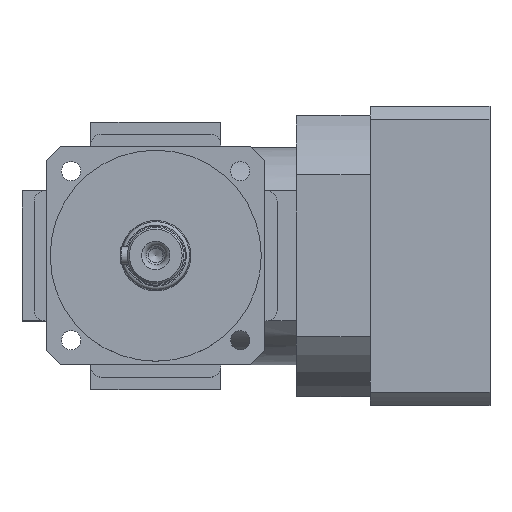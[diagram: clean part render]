
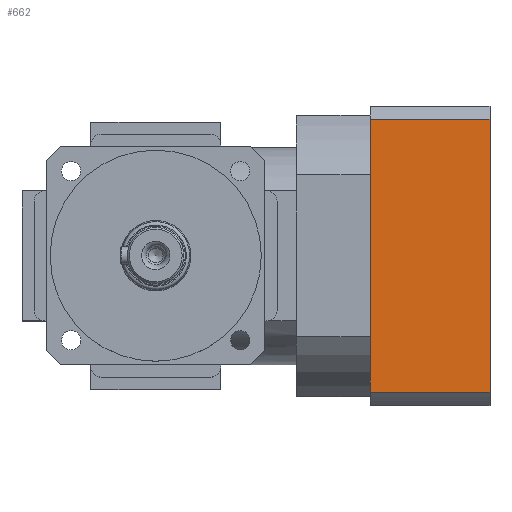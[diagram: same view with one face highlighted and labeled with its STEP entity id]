
A CAD part, top view. The second image highlights one B-rep face of the part: STEP entity #662.
In plain terms, the highlighted planar face has unit normal (0, 0, 1).
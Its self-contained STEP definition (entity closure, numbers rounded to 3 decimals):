
#662=ADVANCED_FACE('',(#1228),#970,.T.);
#970=PLANE('',#7065);
#1228=FACE_OUTER_BOUND('',#1603,.T.);
#1603=EDGE_LOOP('',(#3054,#3055,#3056,#3057));
#3054=ORIENTED_EDGE('',*,*,#5092,.F.);
#3055=ORIENTED_EDGE('',*,*,#5106,.F.);
#3056=ORIENTED_EDGE('',*,*,#5107,.T.);
#3057=ORIENTED_EDGE('',*,*,#5108,.T.);
#4325=VERTEX_POINT('',#10401);
#4326=VERTEX_POINT('',#10403);
#4335=VERTEX_POINT('',#10429);
#4336=VERTEX_POINT('',#10433);
#5092=EDGE_CURVE('',#4325,#4326,#5846,.T.);
#5106=EDGE_CURVE('',#4335,#4325,#5854,.T.);
#5107=EDGE_CURVE('',#4335,#4336,#5855,.T.);
#5108=EDGE_CURVE('',#4336,#4326,#5856,.T.);
#5846=LINE('',#10402,#6418);
#5854=LINE('',#10430,#6426);
#5855=LINE('',#10432,#6427);
#5856=LINE('',#10434,#6428);
#6418=VECTOR('',#8334,1.);
#6426=VECTOR('',#8362,1.);
#6427=VECTOR('',#8365,1.);
#6428=VECTOR('',#8366,1.);
#7065=AXIS2_PLACEMENT_3D('',#10435,#8367,#8368);
#8334=DIRECTION('',(0.,1.,0.));
#8362=DIRECTION('',(-1.,0.,0.));
#8365=DIRECTION('',(0.,1.,0.));
#8366=DIRECTION('',(-1.,0.,0.));
#8367=DIRECTION('',(0.,0.,1.));
#8368=DIRECTION('',(1.,0.,0.));
#10401=CARTESIAN_POINT('',(61.,-38.73,42.5));
#10402=CARTESIAN_POINT('',(61.,-38.73,42.5));
#10403=CARTESIAN_POINT('',(61.,38.73,42.5));
#10429=CARTESIAN_POINT('',(95.,-38.73,42.5));
#10430=CARTESIAN_POINT('',(95.,-38.73,42.5));
#10432=CARTESIAN_POINT('',(95.,-38.73,42.5));
#10433=CARTESIAN_POINT('',(95.,38.73,42.5));
#10434=CARTESIAN_POINT('',(95.,38.73,42.5));
#10435=CARTESIAN_POINT('',(95.,-38.73,42.5));
